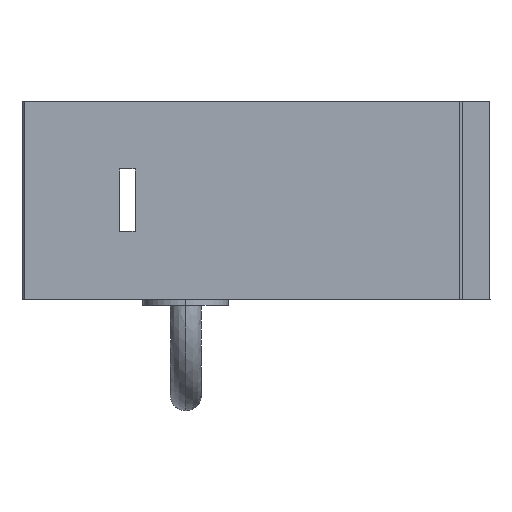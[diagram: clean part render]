
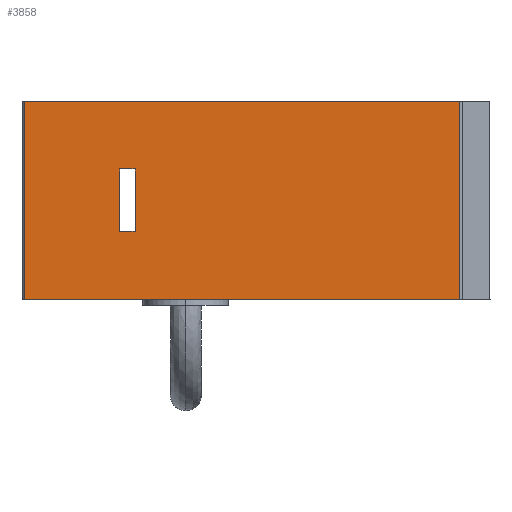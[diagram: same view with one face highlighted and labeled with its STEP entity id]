
A CAD part, left-side view. The second image highlights one B-rep face of the part: STEP entity #3858.
In plain terms, the highlighted free-form (B-spline) face has degree [1, 1] with [2, 2] control points.
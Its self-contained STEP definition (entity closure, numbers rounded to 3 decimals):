
#201=DIRECTION('',(0.,0.,-1.));
#202=VECTOR('',#201,25.4);
#203=CARTESIAN_POINT('',(-40.,29.7,12.7));
#204=LINE('',#203,#202);
#239=DIRECTION('',(0.,-1.,0.));
#240=VECTOR('',#239,55.85);
#241=CARTESIAN_POINT('',(-40.,29.7,-12.7));
#242=LINE('',#241,#240);
#324=DIRECTION('',(0.,0.,-1.));
#325=VECTOR('',#324,8.);
#326=CARTESIAN_POINT('',(-40.,15.5,4.));
#327=LINE('',#326,#325);
#403=DIRECTION('',(0.,1.,0.));
#404=VECTOR('',#403,55.85);
#405=CARTESIAN_POINT('',(-40.,-26.15,12.7));
#406=LINE('',#405,#404);
#691=DIRECTION('',(0.,0.,-1.));
#692=VECTOR('',#691,25.4);
#693=CARTESIAN_POINT('',(-40.,-26.15,12.7));
#694=LINE('',#693,#692);
#695=DIRECTION('',(0.,-1.,0.));
#696=VECTOR('',#695,2.);
#697=CARTESIAN_POINT('',(-40.,17.5,-4.));
#698=LINE('',#697,#696);
#704=DIRECTION('',(0.,-1.,0.));
#705=VECTOR('',#704,2.);
#706=CARTESIAN_POINT('',(-40.,17.5,4.));
#707=LINE('',#706,#705);
#721=DIRECTION('',(0.,0.,1.));
#722=VECTOR('',#721,8.);
#723=CARTESIAN_POINT('',(-40.,17.5,-4.));
#724=LINE('',#723,#722);
#2443=CARTESIAN_POINT('',(-40.,-26.15,-12.7));
#2445=VERTEX_POINT('',#2443);
#2446=CARTESIAN_POINT('',(-40.,-26.15,12.7));
#2447=VERTEX_POINT('',#2446);
#2476=CARTESIAN_POINT('',(-40.,29.7,-12.7));
#2477=VERTEX_POINT('',#2476);
#2536=CARTESIAN_POINT('',(-40.,15.5,4.));
#2537=VERTEX_POINT('',#2536);
#2538=CARTESIAN_POINT('',(-40.,15.5,-4.));
#2539=VERTEX_POINT('',#2538);
#2574=CARTESIAN_POINT('',(-40.,29.7,12.7));
#2575=VERTEX_POINT('',#2574);
#2750=CARTESIAN_POINT('',(-40.,17.5,4.));
#2751=VERTEX_POINT('',#2750);
#2752=CARTESIAN_POINT('',(-40.,17.5,-4.));
#2753=VERTEX_POINT('',#2752);
#3838=CARTESIAN_POINT('',(-40.,30.817,13.208));
#3839=CARTESIAN_POINT('',(-40.,30.817,-13.208));
#3840=CARTESIAN_POINT('',(-40.,-27.267,13.208));
#3841=CARTESIAN_POINT('',(-40.,-27.267,-13.208));
#3842=B_SPLINE_SURFACE_WITH_KNOTS('',1,1,((#3838,#3839),(#3840,#3841)),
.UNSPECIFIED.,.F.,.F.,.F.,(2,2),(2,2),(-29.042,29.042),(-13.208,13.208),
.UNSPECIFIED.);
#3843=ORIENTED_EDGE('',*,*,#3336,.F.);
#3844=ORIENTED_EDGE('',*,*,#3294,.F.);
#3845=ORIENTED_EDGE('',*,*,#3466,.F.);
#3846=ORIENTED_EDGE('',*,*,#3819,.T.);
#3847=EDGE_LOOP('',(#3843,#3844,#3845,#3846));
#3848=FACE_OUTER_BOUND('',#3847,.F.);
#3849=ORIENTED_EDGE('',*,*,#3412,.F.);
#3851=ORIENTED_EDGE('',*,*,#3850,.F.);
#3853=ORIENTED_EDGE('',*,*,#3852,.F.);
#3855=ORIENTED_EDGE('',*,*,#3854,.T.);
#3856=EDGE_LOOP('',(#3849,#3851,#3853,#3855));
#3857=FACE_BOUND('',#3856,.F.);
#3858=ADVANCED_FACE('',(#3848,#3857),#3842,.F.);
#3294=EDGE_CURVE('',#2575,#2477,#204,.T.);
#3336=EDGE_CURVE('',#2477,#2445,#242,.T.);
#3412=EDGE_CURVE('',#2537,#2539,#327,.T.);
#3466=EDGE_CURVE('',#2447,#2575,#406,.T.);
#3819=EDGE_CURVE('',#2447,#2445,#694,.T.);
#3850=EDGE_CURVE('',#2751,#2537,#707,.T.);
#3852=EDGE_CURVE('',#2753,#2751,#724,.T.);
#3854=EDGE_CURVE('',#2753,#2539,#698,.T.);
